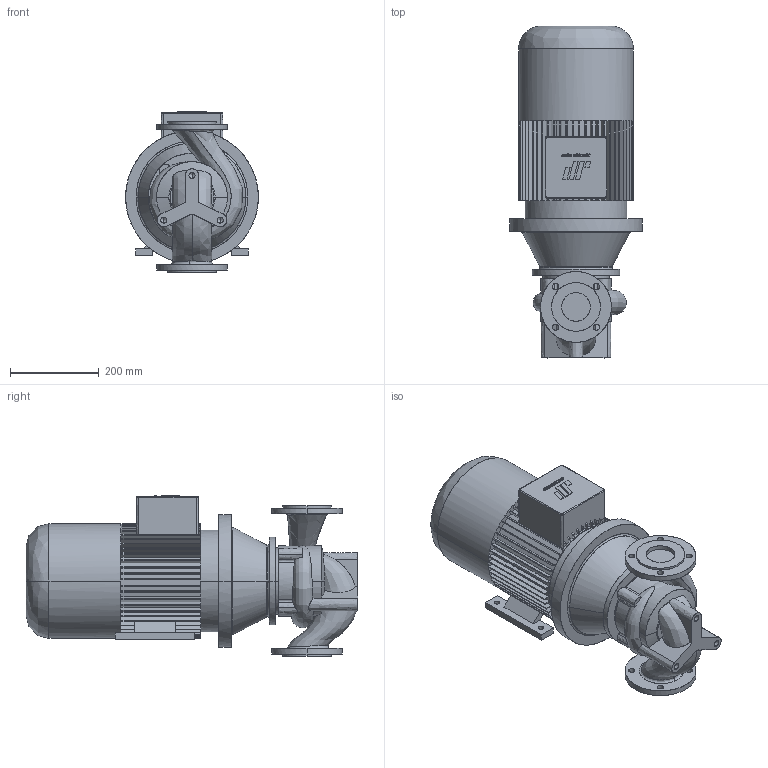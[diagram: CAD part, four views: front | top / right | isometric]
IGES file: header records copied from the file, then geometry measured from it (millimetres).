
Start section: CombiLine
Global section: file name: CLB_65-125_IEC132S.igs; native system:  By UGS Corp.; preprocessor: XPlus GENERIC/IGES 3.0; author: Stageplaats; organization: Johnson Pump Water B.V.; date: 20070713.132354; units: millimetre
Bounding box: 300 x 750 x 363 mm (x, y, z)
Surface area: 1137380.8 mm2 (no closed solid volume)
Topology: 0 solids, 0 shells, 562 faces, 3400 edges, 3394 vertices
Faces by surface type: bspline 562
